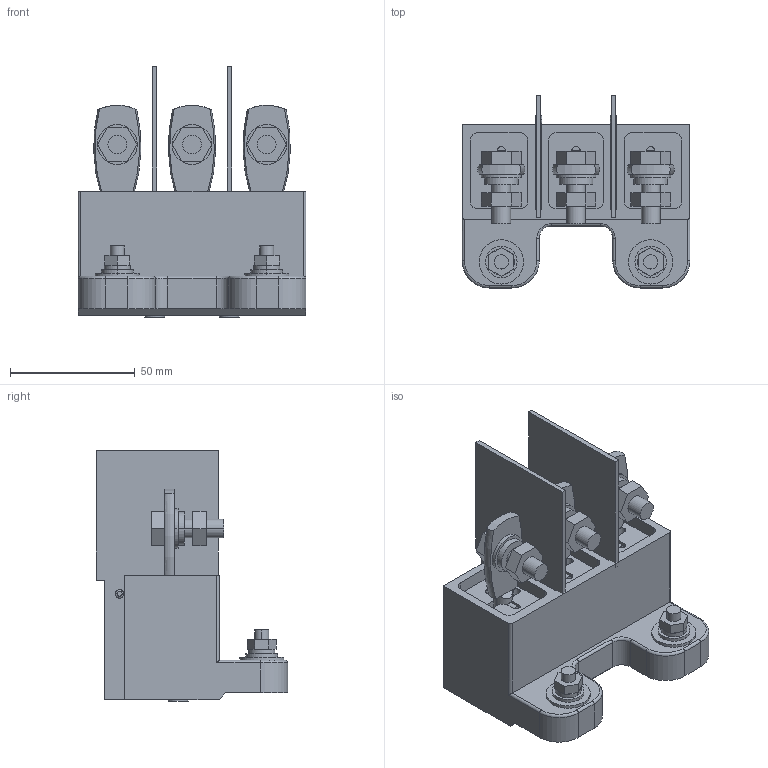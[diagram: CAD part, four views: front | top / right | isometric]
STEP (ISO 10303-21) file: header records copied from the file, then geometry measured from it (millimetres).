
FILE_DESCRIPTION (( 'STEP AP214' ), '1' );
FILE_NAME ('ﾂ鮱_ⅲ濵籵湜蘋鈞蓖裹_TEM5E_TDM_125_160.STEP', '2025-12-05T13:32:30', ( '' ), ( '' ), 'SwSTEP 2.0', 'SolidWorks 2024', '' );
FILE_SCHEMA (( 'AUTOMOTIVE_DESIGN' ));
Length unit declared in the file: millimetre
Products named in the file (5): boj15BC88EFaxgb_3.stp; Втычное_основание_заднее_TEM5E_TDM_125_160; boj15BC88EFaxgb_2.stp; boj15BC88EFaxgb_1.stp; Втычное_основание_заднее_TEM5E_TDM_125_160.stp
Assembly tree (4 placements, depth 3):
  Втычное_основание_заднее_TEM5E_TDM_125_160
    Втычное_основание_заднее_TEM5E_TDM_125_160.stp
      boj15BC88EFaxgb_1.stp
      boj15BC88EFaxgb_2.stp
      boj15BC88EFaxgb_3.stp
Bounding box: 91.5 x 77 x 100.7 mm (x, y, z)
Volume: 144414.1 mm3; surface area: 66332 mm2
Topology: 3 solids, 8 shells, 504 faces, 1240 edges, 814 vertices
Faces by surface type: plane 323, cylinder 145, bspline 24, torus 12
Entity records: 16077 total; most frequent: CARTESIAN_POINT 3880, DIRECTION 2530, ORIENTED_EDGE 2480, EDGE_CURVE 1240, AXIS2_PLACEMENT_3D 870, VERTEX_POINT 814, VECTOR 790, LINE 790
